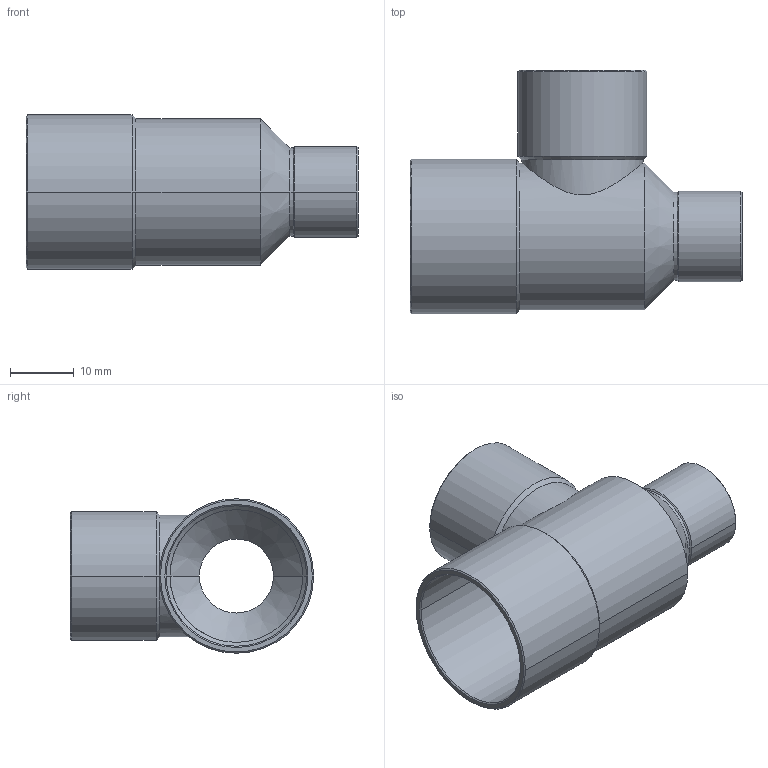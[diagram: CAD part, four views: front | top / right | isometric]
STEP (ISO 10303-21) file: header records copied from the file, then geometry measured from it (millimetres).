
FILE_DESCRIPTION((''),'2;1');
FILE_NAME('P:\Bouwmaten\z-maattekeningen 3D\5000\5130\5130221812.stp','2005-10-26T11:53:45',('Kris'),(''),'Autodesk Inventor 8','Autodesk Inventor 8','');
FILE_SCHEMA(('AUTOMOTIVE_DESIGN { 1 0 10303 214 1 1 1 1 }'));
Length unit declared in the file: millimetre
Products named in the file (1): 5130221812
Bounding box: 52 x 38.1 x 24.2 mm (x, y, z)
Volume: 4480.1 mm3; surface area: 8450.8 mm2
Topology: 1 solids, 1 shells, 55 faces, 116 edges, 62 vertices
Faces by surface type: cone 28, cylinder 24, plane 3
Entity records: 1543 total; most frequent: CARTESIAN_POINT 320, DIRECTION 278, ORIENTED_EDGE 232, EDGE_CURVE 116, AXIS2_PLACEMENT_3D 112, VERTEX_POINT 62, EDGE_LOOP 58, CIRCLE 56
